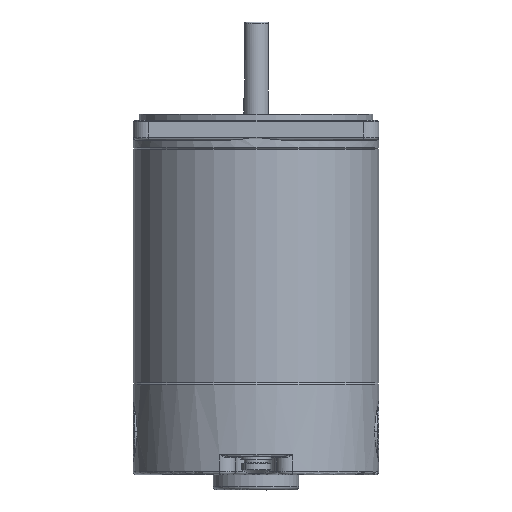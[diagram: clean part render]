
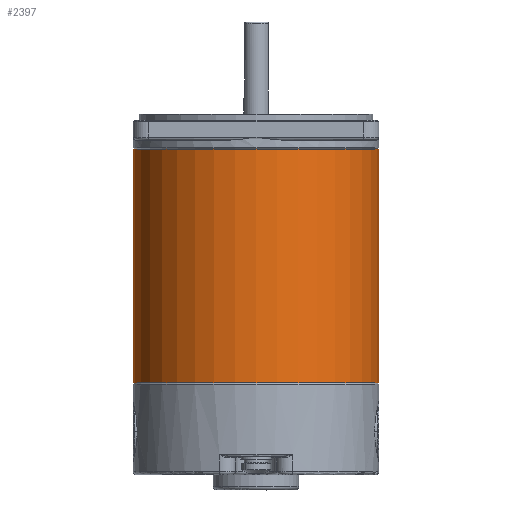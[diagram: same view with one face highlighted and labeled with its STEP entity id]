
A CAD part, front view. The second image highlights one B-rep face of the part: STEP entity #2397.
In plain terms, the highlighted cylindrical face has radius 40 mm (diameter 80 mm), a partial arc.
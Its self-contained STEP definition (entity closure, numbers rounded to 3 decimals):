
#40 = CIRCLE ( 'NONE', #7965, 40. ) ;
#226 = AXIS2_PLACEMENT_3D ( 'NONE', #6254, #570, #2816 ) ;
#355 = EDGE_CURVE ( 'NONE', #6343, #6789, #3732, .T. ) ;
#541 = DIRECTION ( 'NONE',  ( 0., 0., -1. ) ) ;
#570 = DIRECTION ( 'NONE',  ( 0., -1., 0. ) ) ;
#597 = CARTESIAN_POINT ( 'NONE',  ( 47.192, 99., -43.62 ) ) ;
#732 = ORIENTED_EDGE ( 'NONE', *, *, #11295, .T. ) ;
#1609 = DIRECTION ( 'NONE',  ( 0., -1., 0. ) ) ;
#1689 = CARTESIAN_POINT ( 'NONE',  ( 47.192, 99., 36.38 ) ) ;
#2120 = AXIS2_PLACEMENT_3D ( 'NONE', #11620, #1609, #12586 ) ;
#2397 = ADVANCED_FACE ( 'NONE', ( #12735 ), #7157, .T. ) ;
#2704 = CARTESIAN_POINT ( 'NONE',  ( 47.192, 0., -3.62 ) ) ;
#2725 = EDGE_LOOP ( 'NONE', ( #11050, #4019, #11210, #732 ) ) ;
#2816 = DIRECTION ( 'NONE',  ( 0., 0., 1. ) ) ;
#3545 = DIRECTION ( 'NONE',  ( 0., 1., 0. ) ) ;
#3732 = LINE ( 'NONE', #1689, #9377 ) ;
#4019 = ORIENTED_EDGE ( 'NONE', *, *, #4854, .T. ) ;
#4705 = CARTESIAN_POINT ( 'NONE',  ( 47.192, 0., 36.38 ) ) ;
#4854 = EDGE_CURVE ( 'NONE', #6343, #9398, #10709, .T. ) ;
#6058 = DIRECTION ( 'NONE',  ( 0., -1., 0. ) ) ;
#6254 = CARTESIAN_POINT ( 'NONE',  ( 47.192, 76., -3.62 ) ) ;
#6258 = VECTOR ( 'NONE', #6058, 1000. ) ;
#6343 = VERTEX_POINT ( 'NONE', #11494 ) ;
#6789 = VERTEX_POINT ( 'NONE', #4705 ) ;
#7092 = CARTESIAN_POINT ( 'NONE',  ( 47.192, 76., -43.62 ) ) ;
#7157 = CYLINDRICAL_SURFACE ( 'NONE', #2120, 40. ) ;
#7483 = VERTEX_POINT ( 'NONE', #11652 ) ;
#7965 = AXIS2_PLACEMENT_3D ( 'NONE', #2704, #3545, #541 ) ;
#8195 = DIRECTION ( 'NONE',  ( 0., -1., 0. ) ) ;
#9377 = VECTOR ( 'NONE', #8195, 1000. ) ;
#9398 = VERTEX_POINT ( 'NONE', #7092 ) ;
#9403 = EDGE_CURVE ( 'NONE', #9398, #7483, #11623, .T. ) ;
#10709 = CIRCLE ( 'NONE', #226, 40. ) ;
#11050 = ORIENTED_EDGE ( 'NONE', *, *, #355, .F. ) ;
#11210 = ORIENTED_EDGE ( 'NONE', *, *, #9403, .T. ) ;
#11295 = EDGE_CURVE ( 'NONE', #7483, #6789, #40, .T. ) ;
#11494 = CARTESIAN_POINT ( 'NONE',  ( 47.192, 76., 36.38 ) ) ;
#11620 = CARTESIAN_POINT ( 'NONE',  ( 47.192, 99., -3.62 ) ) ;
#11623 = LINE ( 'NONE', #597, #6258 ) ;
#11652 = CARTESIAN_POINT ( 'NONE',  ( 47.192, 0., -43.62 ) ) ;
#12586 = DIRECTION ( 'NONE',  ( 0., 0., -1. ) ) ;
#12735 = FACE_OUTER_BOUND ( 'NONE', #2725, .T. ) ;
